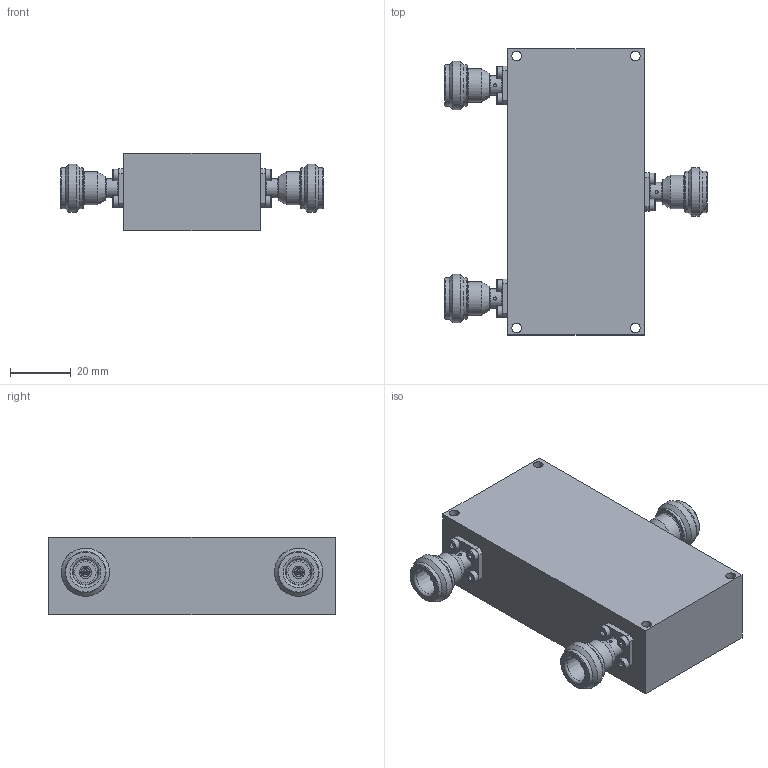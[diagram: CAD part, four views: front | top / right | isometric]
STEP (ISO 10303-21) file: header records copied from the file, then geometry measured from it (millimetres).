
FILE_DESCRIPTION(/* description */ ('Unknown'),/* implementation_level */ '2;1');
FILE_NAME(/* name */ 'DETI_MICROWAVE_NARROW_BAND_COMBINER_011129_STEP',/* time_stamp */ '2021-06-14T14:48:31+02:00',/* author */ ('ALG'),/* organization */ ('DETI'),/* preprocessor_version */ 'ST-DEVELOPER v16.7',/* originating_system */ 'Solid Edge',/* authorisation */ 'Unknown');
FILE_SCHEMA (('AUTOMOTIVE_DESIGN {1 0 10303 214 3 1 1}'));
Length unit declared in the file: millimetre
Products named in the file (1): CO-2-5400-5900-400-NF-NF_entraxe17mm2
Bounding box: 86.4 x 94 x 25.4 mm (x, y, z)
Volume: 101937.8 mm3; surface area: 29300.4 mm2
Topology: 1 solids, 37 shells, 534 faces, 1263 edges, 829 vertices
Faces by surface type: plane 258, cylinder 135, cone 117, torus 24
Full cylindrical faces by diameter (mm): 1 x6, 1.275 x3, 1.567 x16, 2 x12, 2.013 x13, 2.1 x3, 2.9 x12, 3.03 x3, 3.2 x4, 3.8 x12, 4.06 x3, 6.3 x3, 7 x3, 10.9 x3, 13.5 x6, 15.84 x3
Entity records: 17508 total; most frequent: CARTESIAN_POINT 2993, DIRECTION 2198, ORIENTED_EDGE 1898, EDGE_CURVE 949, AXIS2_PLACEMENT_3D 938, FACE_BOUND 810, EDGE_LOOP 776, VERTEX_POINT 733
